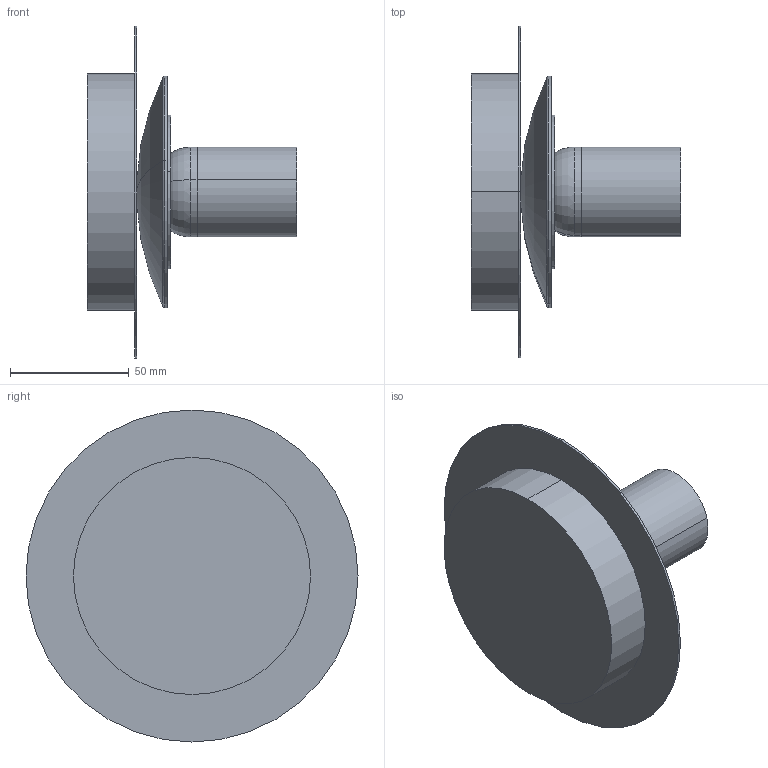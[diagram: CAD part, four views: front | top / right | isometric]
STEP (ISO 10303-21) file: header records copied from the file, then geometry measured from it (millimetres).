
FILE_DESCRIPTION (( 'STEP AP203' ), '1' );
FILE_NAME ('PARMA - P3946082 - PLAFON 1 LUZ.STEP', '2026-01-21T12:54:32', ( '' ), ( '' ), 'SwSTEP 2.0', 'SolidWorks 2025', '' );
FILE_SCHEMA (( 'CONFIG_CONTROL_DESIGN' ));
Length unit declared in the file: millimetre
Products named in the file (5): PARMA - P3946082 - PLAFON 1 LUZ; Portalamparas E27 Parma; Base Parma Shifa; BaseParmaConCasquillo; ESTRUCTURA PARMA PLAFON 1 LUZ
Assembly tree (4 placements, depth 3):
  PARMA - P3946082 - PLAFON 1 LUZ
    ESTRUCTURA PARMA PLAFON 1 LUZ
    BaseParmaConCasquillo
      Base Parma Shifa
      Portalamparas E27 Parma
Bounding box: 88.45 x 140 x 140 mm (x, y, z)
Volume: 240865.5 mm3; surface area: 69075 mm2
Topology: 3 solids, 3 shells, 67 faces, 145 edges, 90 vertices
Faces by surface type: cylinder 39, plane 14, torus 8, bspline 4, cone 2
Entity records: 3533 total; most frequent: CARTESIAN_POINT 1586, DIRECTION 325, ORIENTED_EDGE 290, EDGE_CURVE 145, AXIS2_PLACEMENT_3D 142, VERTEX_POINT 90, EDGE_LOOP 77, CIRCLE 71
